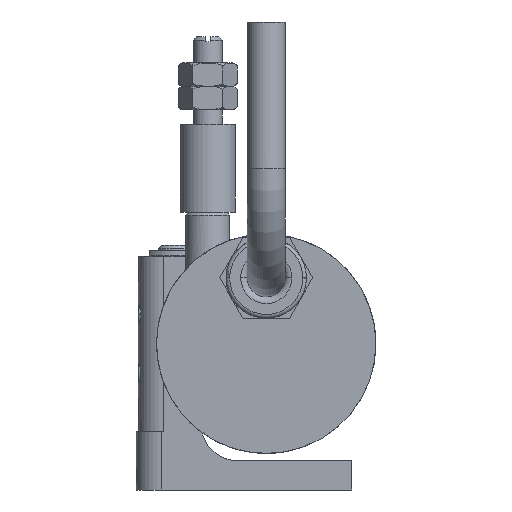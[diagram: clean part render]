
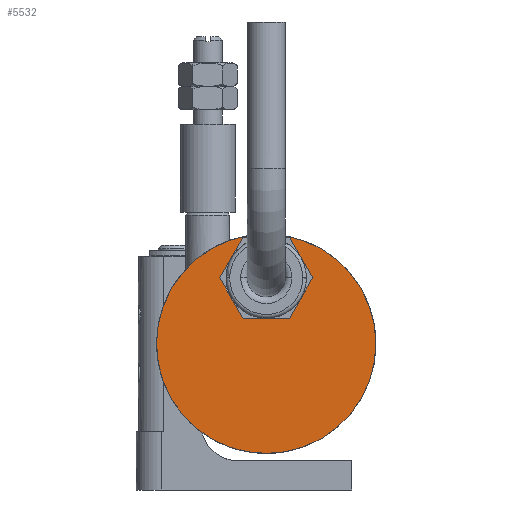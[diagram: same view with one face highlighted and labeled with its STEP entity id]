
A CAD part, left-side view. The second image highlights one B-rep face of the part: STEP entity #5532.
In plain terms, the highlighted planar face has unit normal (-1, 0, 0).
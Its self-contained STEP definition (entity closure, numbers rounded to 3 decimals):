
#1814=CARTESIAN_POINT('',(-64.,0.,0.));
#1815=DIRECTION('',(1.,0.,0.));
#1816=DIRECTION('',(0.,1.,0.));
#1817=AXIS2_PLACEMENT_3D('',#1814,#1815,#1816);
#1819=CARTESIAN_POINT('',(-64.,0.,0.));
#1820=DIRECTION('',(1.,0.,0.));
#1821=DIRECTION('',(0.,-1.,0.));
#1822=AXIS2_PLACEMENT_3D('',#1819,#1820,#1821);
#1824=DIRECTION('',(0.,0.5,-0.866));
#1825=VECTOR('',#1824,6.351);
#1826=CARTESIAN_POINT('',(-64.,-6.351,9.));
#1827=LINE('',#1826,#1825);
#1828=DIRECTION('',(0.,-0.5,-0.866));
#1829=VECTOR('',#1828,6.351);
#1830=CARTESIAN_POINT('',(-64.,-3.175,14.5));
#1831=LINE('',#1830,#1829);
#1832=DIRECTION('',(0.,-1.,0.));
#1833=VECTOR('',#1832,6.351);
#1834=CARTESIAN_POINT('',(-64.,3.175,14.5));
#1835=LINE('',#1834,#1833);
#1836=DIRECTION('',(0.,-0.5,0.866));
#1837=VECTOR('',#1836,6.351);
#1838=CARTESIAN_POINT('',(-64.,6.351,9.));
#1839=LINE('',#1838,#1837);
#1840=DIRECTION('',(0.,0.5,0.866));
#1841=VECTOR('',#1840,6.351);
#1842=CARTESIAN_POINT('',(-64.,3.175,3.5));
#1843=LINE('',#1842,#1841);
#1844=DIRECTION('',(0.,1.,0.));
#1845=VECTOR('',#1844,6.351);
#1846=CARTESIAN_POINT('',(-64.,-3.175,3.5));
#1847=LINE('',#1846,#1845);
#3420=CARTESIAN_POINT('',(-64.,15.,0.));
#3421=CARTESIAN_POINT('',(-64.,-15.,0.));
#3422=VERTEX_POINT('',#3420);
#3423=VERTEX_POINT('',#3421);
#3676=CARTESIAN_POINT('',(-64.,-6.351,9.));
#3677=CARTESIAN_POINT('',(-64.,-3.175,3.5));
#3678=VERTEX_POINT('',#3676);
#3679=VERTEX_POINT('',#3677);
#3680=CARTESIAN_POINT('',(-64.,-3.175,14.5));
#3681=VERTEX_POINT('',#3680);
#3682=CARTESIAN_POINT('',(-64.,3.175,14.5));
#3683=VERTEX_POINT('',#3682);
#3684=CARTESIAN_POINT('',(-64.,6.351,9.));
#3685=VERTEX_POINT('',#3684);
#3686=CARTESIAN_POINT('',(-64.,3.175,3.5));
#3687=VERTEX_POINT('',#3686);
#5509=CARTESIAN_POINT('',(-64.,0.,0.));
#5510=DIRECTION('',(1.,0.,0.));
#5511=DIRECTION('',(0.,1.,0.));
#5512=AXIS2_PLACEMENT_3D('',#5509,#5510,#5511);
#5513=PLANE('',#5512);
#5514=ORIENTED_EDGE('',*,*,#4372,.T.);
#5515=ORIENTED_EDGE('',*,*,#5050,.T.);
#5516=EDGE_LOOP('',(#5514,#5515));
#5517=FACE_OUTER_BOUND('',#5516,.F.);
#5519=ORIENTED_EDGE('',*,*,#5518,.F.);
#5521=ORIENTED_EDGE('',*,*,#5520,.F.);
#5523=ORIENTED_EDGE('',*,*,#5522,.F.);
#5525=ORIENTED_EDGE('',*,*,#5524,.F.);
#5527=ORIENTED_EDGE('',*,*,#5526,.F.);
#5529=ORIENTED_EDGE('',*,*,#5528,.F.);
#5530=EDGE_LOOP('',(#5519,#5521,#5523,#5525,#5527,#5529));
#5531=FACE_BOUND('',#5530,.F.);
#5532=ADVANCED_FACE('',(#5517,#5531),#5513,.F.);
#1818=CIRCLE('',#1817,15.);
#1823=CIRCLE('',#1822,15.);
#4372=EDGE_CURVE('',#3422,#3423,#1818,.T.);
#5050=EDGE_CURVE('',#3423,#3422,#1823,.T.);
#5518=EDGE_CURVE('',#3678,#3679,#1827,.T.);
#5520=EDGE_CURVE('',#3681,#3678,#1831,.T.);
#5522=EDGE_CURVE('',#3683,#3681,#1835,.T.);
#5524=EDGE_CURVE('',#3685,#3683,#1839,.T.);
#5526=EDGE_CURVE('',#3687,#3685,#1843,.T.);
#5528=EDGE_CURVE('',#3679,#3687,#1847,.T.);
